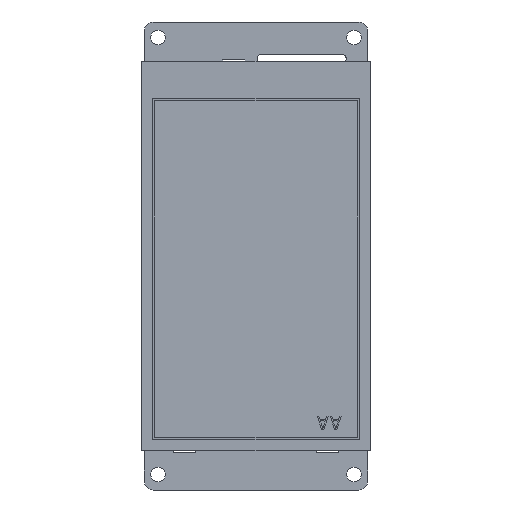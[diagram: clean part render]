
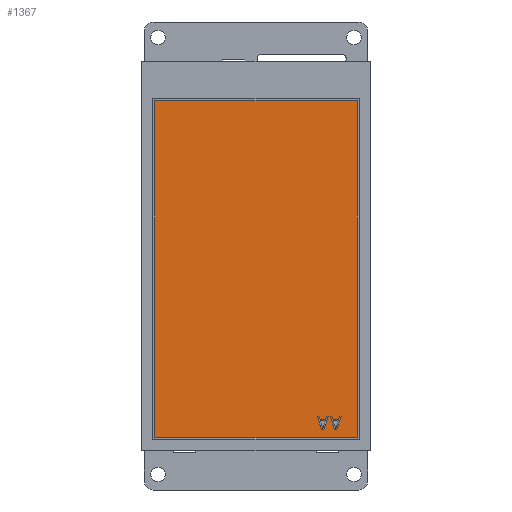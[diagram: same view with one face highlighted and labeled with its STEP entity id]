
A CAD part, front view. The second image highlights one B-rep face of the part: STEP entity #1367.
In plain terms, the highlighted planar face has unit normal (0, -1, 0) as drawn and (0, 1, 0) by its records, which use the part's own axes.
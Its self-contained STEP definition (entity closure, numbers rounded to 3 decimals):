
#773=DIRECTION('',(0.,0.,1.));
#774=VECTOR('',#773,75.6);
#775=CARTESIAN_POINT('',(-22.68,2.2,-40.75));
#776=LINE('',#775,#774);
#777=DIRECTION('',(-1.,0.,0.));
#778=VECTOR('',#777,45.36);
#779=CARTESIAN_POINT('',(22.68,2.2,-40.75));
#780=LINE('',#779,#778);
#781=DIRECTION('',(0.,0.,-1.));
#782=VECTOR('',#781,75.6);
#783=CARTESIAN_POINT('',(22.68,2.2,34.85));
#784=LINE('',#783,#782);
#785=DIRECTION('',(1.,0.,0.));
#786=VECTOR('',#785,45.36);
#787=CARTESIAN_POINT('',(-22.68,2.2,34.85));
#788=LINE('',#787,#786);
#789=DIRECTION('',(0.316,0.,0.949));
#790=VECTOR('',#789,3.067);
#791=CARTESIAN_POINT('',(-17.647,2.2,-38.923));
#792=LINE('',#791,#790);
#793=DIRECTION('',(1.,0.,0.));
#794=VECTOR('',#793,0.485);
#795=CARTESIAN_POINT('',(-18.132,2.2,-38.923));
#796=LINE('',#795,#794);
#797=DIRECTION('',(0.316,0.,-0.949));
#798=VECTOR('',#797,3.067);
#799=CARTESIAN_POINT('',(-19.102,2.2,-36.013));
#800=LINE('',#799,#798);
#801=DIRECTION('',(-1.,0.,0.));
#802=VECTOR('',#801,0.364);
#803=CARTESIAN_POINT('',(-18.738,2.2,-36.013));
#804=LINE('',#803,#802);
#805=DIRECTION('',(-0.31,0.,0.951));
#806=VECTOR('',#805,0.782);
#807=CARTESIAN_POINT('',(-18.495,2.2,-36.756));
#808=LINE('',#807,#806);
#809=DIRECTION('',(-1.,0.,0.));
#810=VECTOR('',#809,1.213);
#811=CARTESIAN_POINT('',(-17.283,2.2,-36.756));
#812=LINE('',#811,#810);
#813=DIRECTION('',(-0.31,0.,-0.951));
#814=VECTOR('',#813,0.782);
#815=CARTESIAN_POINT('',(-17.04,2.2,-36.013));
#816=LINE('',#815,#814);
#817=DIRECTION('',(-1.,0.,0.));
#818=VECTOR('',#817,0.364);
#819=CARTESIAN_POINT('',(-16.677,2.2,-36.013));
#820=LINE('',#819,#818);
#833=DIRECTION('',(0.316,0.,0.949));
#834=VECTOR('',#833,3.067);
#835=CARTESIAN_POINT('',(-14.737,2.2,-38.923));
#836=LINE('',#835,#834);
#837=DIRECTION('',(1.,0.,0.));
#838=VECTOR('',#837,0.485);
#839=CARTESIAN_POINT('',(-15.222,2.2,-38.923));
#840=LINE('',#839,#838);
#841=DIRECTION('',(0.316,0.,-0.949));
#842=VECTOR('',#841,3.067);
#843=CARTESIAN_POINT('',(-16.192,2.2,-36.013));
#844=LINE('',#843,#842);
#845=DIRECTION('',(-1.,0.,0.));
#846=VECTOR('',#845,0.364);
#847=CARTESIAN_POINT('',(-15.828,2.2,-36.013));
#848=LINE('',#847,#846);
#849=DIRECTION('',(-0.31,0.,0.951));
#850=VECTOR('',#849,0.782);
#851=CARTESIAN_POINT('',(-15.585,2.2,-36.756));
#852=LINE('',#851,#850);
#853=DIRECTION('',(-1.,0.,0.));
#854=VECTOR('',#853,1.212);
#855=CARTESIAN_POINT('',(-14.373,2.2,-36.756));
#856=LINE('',#855,#854);
#857=DIRECTION('',(-0.31,0.,-0.951));
#858=VECTOR('',#857,0.782);
#859=CARTESIAN_POINT('',(-14.13,2.2,-36.013));
#860=LINE('',#859,#858);
#861=DIRECTION('',(-1.,0.,0.));
#862=VECTOR('',#861,0.364);
#863=CARTESIAN_POINT('',(-13.767,2.2,-36.013));
#864=LINE('',#863,#862);
#981=CARTESIAN_POINT('',(-22.68,2.2,-40.75));
#982=CARTESIAN_POINT('',(-22.68,2.2,34.85));
#983=VERTEX_POINT('',#981);
#984=VERTEX_POINT('',#982);
#985=CARTESIAN_POINT('',(22.68,2.2,34.85));
#986=VERTEX_POINT('',#985);
#987=CARTESIAN_POINT('',(22.68,2.2,-40.75));
#988=VERTEX_POINT('',#987);
#989=CARTESIAN_POINT('',(-17.647,2.2,-38.923));
#990=CARTESIAN_POINT('',(-16.677,2.2,-36.013));
#991=VERTEX_POINT('',#989);
#992=VERTEX_POINT('',#990);
#993=CARTESIAN_POINT('',(-17.04,2.2,-36.013));
#994=VERTEX_POINT('',#993);
#995=CARTESIAN_POINT('',(-17.283,2.2,-36.756));
#996=VERTEX_POINT('',#995);
#997=CARTESIAN_POINT('',(-18.495,2.2,-36.756));
#998=VERTEX_POINT('',#997);
#999=CARTESIAN_POINT('',(-18.738,2.2,-36.013));
#1000=VERTEX_POINT('',#999);
#1001=CARTESIAN_POINT('',(-19.102,2.2,-36.013));
#1002=VERTEX_POINT('',#1001);
#1003=CARTESIAN_POINT('',(-18.132,2.2,-38.923));
#1004=VERTEX_POINT('',#1003);
#1011=CARTESIAN_POINT('',(-14.737,2.2,-38.923));
#1012=CARTESIAN_POINT('',(-13.767,2.2,-36.013));
#1013=VERTEX_POINT('',#1011);
#1014=VERTEX_POINT('',#1012);
#1015=CARTESIAN_POINT('',(-14.13,2.2,-36.013));
#1016=VERTEX_POINT('',#1015);
#1017=CARTESIAN_POINT('',(-14.373,2.2,-36.756));
#1018=VERTEX_POINT('',#1017);
#1019=CARTESIAN_POINT('',(-15.585,2.2,-36.756));
#1020=VERTEX_POINT('',#1019);
#1021=CARTESIAN_POINT('',(-15.828,2.2,-36.013));
#1022=VERTEX_POINT('',#1021);
#1023=CARTESIAN_POINT('',(-16.192,2.2,-36.013));
#1024=VERTEX_POINT('',#1023);
#1025=CARTESIAN_POINT('',(-15.222,2.2,-38.923));
#1026=VERTEX_POINT('',#1025);
#1320=CARTESIAN_POINT('',(0.,2.2,0.));
#1321=DIRECTION('',(0.,1.,0.));
#1322=DIRECTION('',(1.,0.,0.));
#1323=AXIS2_PLACEMENT_3D('',#1320,#1321,#1322);
#1324=PLANE('',#1323);
#1325=ORIENTED_EDGE('',*,*,#1272,.F.);
#1326=ORIENTED_EDGE('',*,*,#1287,.F.);
#1327=ORIENTED_EDGE('',*,*,#1301,.F.);
#1328=ORIENTED_EDGE('',*,*,#1314,.F.);
#1329=EDGE_LOOP('',(#1325,#1326,#1327,#1328));
#1330=FACE_OUTER_BOUND('',#1329,.F.);
#1332=ORIENTED_EDGE('',*,*,#1331,.F.);
#1334=ORIENTED_EDGE('',*,*,#1333,.F.);
#1336=ORIENTED_EDGE('',*,*,#1335,.F.);
#1338=ORIENTED_EDGE('',*,*,#1337,.F.);
#1340=ORIENTED_EDGE('',*,*,#1339,.F.);
#1342=ORIENTED_EDGE('',*,*,#1341,.F.);
#1344=ORIENTED_EDGE('',*,*,#1343,.F.);
#1346=ORIENTED_EDGE('',*,*,#1345,.F.);
#1347=EDGE_LOOP('',(#1332,#1334,#1336,#1338,#1340,#1342,#1344,#1346));
#1348=FACE_BOUND('',#1347,.F.);
#1350=ORIENTED_EDGE('',*,*,#1349,.F.);
#1352=ORIENTED_EDGE('',*,*,#1351,.F.);
#1354=ORIENTED_EDGE('',*,*,#1353,.F.);
#1356=ORIENTED_EDGE('',*,*,#1355,.F.);
#1358=ORIENTED_EDGE('',*,*,#1357,.F.);
#1360=ORIENTED_EDGE('',*,*,#1359,.F.);
#1362=ORIENTED_EDGE('',*,*,#1361,.F.);
#1364=ORIENTED_EDGE('',*,*,#1363,.F.);
#1365=EDGE_LOOP('',(#1350,#1352,#1354,#1356,#1358,#1360,#1362,#1364));
#1366=FACE_BOUND('',#1365,.F.);
#1272=EDGE_CURVE('',#983,#984,#776,.T.);
#1287=EDGE_CURVE('',#988,#983,#780,.T.);
#1301=EDGE_CURVE('',#986,#988,#784,.T.);
#1314=EDGE_CURVE('',#984,#986,#788,.T.);
#1331=EDGE_CURVE('',#991,#992,#792,.T.);
#1333=EDGE_CURVE('',#1004,#991,#796,.T.);
#1335=EDGE_CURVE('',#1002,#1004,#800,.T.);
#1337=EDGE_CURVE('',#1000,#1002,#804,.T.);
#1339=EDGE_CURVE('',#998,#1000,#808,.T.);
#1341=EDGE_CURVE('',#996,#998,#812,.T.);
#1343=EDGE_CURVE('',#994,#996,#816,.T.);
#1345=EDGE_CURVE('',#992,#994,#820,.T.);
#1349=EDGE_CURVE('',#1013,#1014,#836,.T.);
#1351=EDGE_CURVE('',#1026,#1013,#840,.T.);
#1353=EDGE_CURVE('',#1024,#1026,#844,.T.);
#1355=EDGE_CURVE('',#1022,#1024,#848,.T.);
#1357=EDGE_CURVE('',#1020,#1022,#852,.T.);
#1359=EDGE_CURVE('',#1018,#1020,#856,.T.);
#1361=EDGE_CURVE('',#1016,#1018,#860,.T.);
#1363=EDGE_CURVE('',#1014,#1016,#864,.T.);
#1367=ADVANCED_FACE('',(#1330,#1348,#1366),#1324,.T.);
